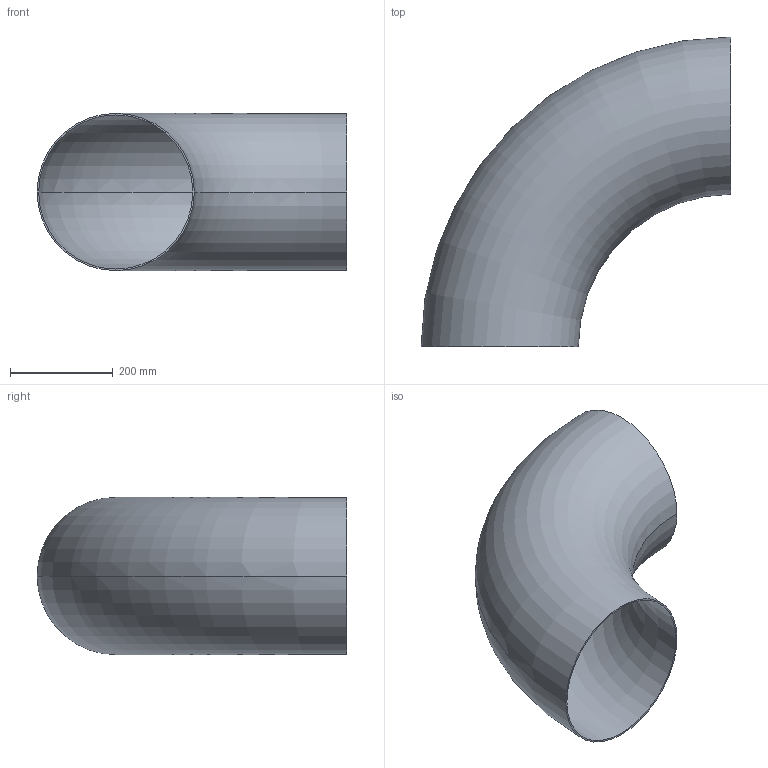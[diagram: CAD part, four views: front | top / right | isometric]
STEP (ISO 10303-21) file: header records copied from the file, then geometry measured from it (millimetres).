
FILE_DESCRIPTION (( 'STEP AP203' ), '1' );
FILE_NAME ('OT212-300-306x3_OSTP.step', '2020-12-16T03:10:15', ( '' ), ( '' ), 'SwSTEP 2.0', 'SolidWorks 2014', '' );
FILE_SCHEMA (( 'CONFIG_CONTROL_DESIGN' ));
Length unit declared in the file: millimetre
Products named in the file (1): OT212-300-306x3_OSTP
Bounding box: 603 x 603 x 306 mm (x, y, z)
Volume: 2018580.8 mm3; surface area: 1351432 mm2
Topology: 1 solids, 1 shells, 6 faces, 12 edges, 8 vertices
Faces by surface type: torus 4, plane 2
Entity records: 249 total; most frequent: DIRECTION 38, CARTESIAN_POINT 27, ORIENTED_EDGE 24, AXIS2_PLACEMENT_3D 19, CIRCLE 12, EDGE_CURVE 12, VERTEX_POINT 8, EDGE_LOOP 8
